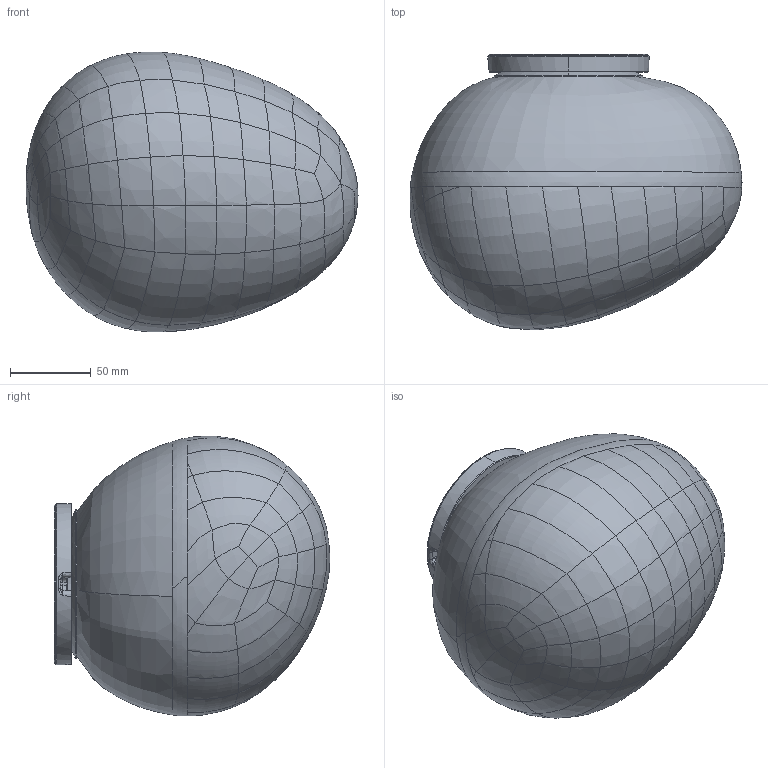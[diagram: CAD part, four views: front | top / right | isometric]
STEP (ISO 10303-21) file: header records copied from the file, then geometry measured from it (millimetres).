
FILE_DESCRIPTION (( 'STEP AP203' ), '1' );
FILE_NAME ('168_MIDI_T_PL_3D.STEP', '2024-05-09T09:13:14', ( '' ), ( '' ), 'SwSTEP 2.0', 'SolidWorks 2023', '' );
FILE_SCHEMA (( 'CONFIG_CONTROL_DESIGN' ));
Length unit declared in the file: millimetre
Products named in the file (1): 168_MIDI_T_PL_3D
Bounding box: 205.53 x 170.65 x 173.34 mm (x, y, z)
Volume: 388121.3 mm3; surface area: 242364.5 mm2
Topology: 4 solids, 4 shells, 959 faces, 2245 edges, 1256 vertices
Faces by surface type: bspline 456, cylinder 171, plane 110, torus 91, cone 81, sphere 50
Entity records: 248102 total; most frequent: CARTESIAN_POINT 229932, ORIENTED_EDGE 4364, DIRECTION 2928, EDGE_CURVE 2182, AXIS2_PLACEMENT_3D 1268, VERTEX_POINT 1248, EDGE_LOOP 992, FACE_OUTER_BOUND 959
